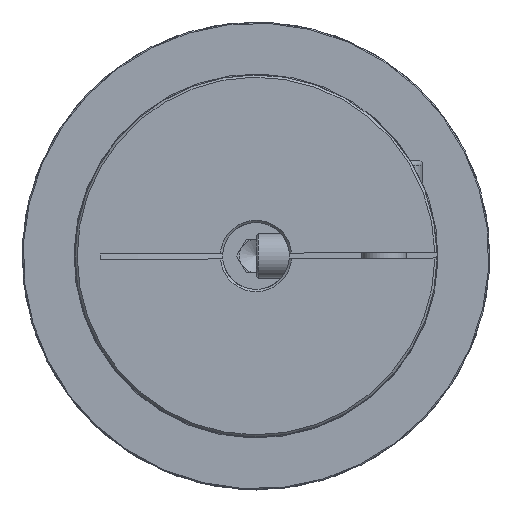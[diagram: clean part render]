
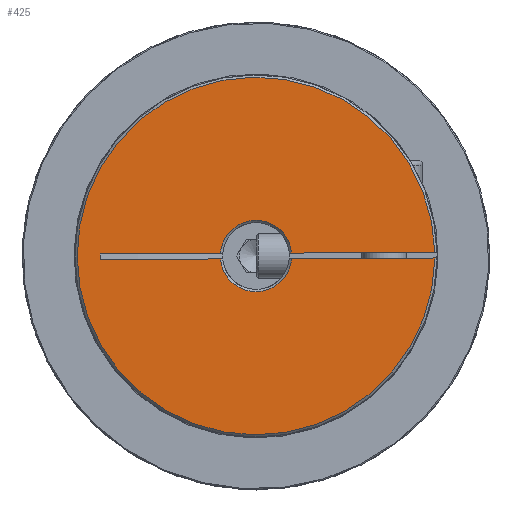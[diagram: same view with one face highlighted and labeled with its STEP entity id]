
A CAD part, left-side view. The second image highlights one B-rep face of the part: STEP entity #425.
In plain terms, the highlighted planar face has unit normal (-1, 0, 0).
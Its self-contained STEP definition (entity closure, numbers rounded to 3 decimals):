
#425 = ADVANCED_FACE( 'NONE', ( #809 ), #810, .F. );
#809 = FACE_OUTER_BOUND( '', #1334, .T. );
#810 = PLANE( '', #1335 );
#1334 = EDGE_LOOP( '', ( #2134, #2135, #2136, #2137, #2138, #2139, #2140, #2141 ) );
#1335 = AXIS2_PLACEMENT_3D( '', #2142, #2143, #2144 );
#2134 = ORIENTED_EDGE( '', *, *, #2863, .T. );
#2135 = ORIENTED_EDGE( '', *, *, #2864, .T. );
#2136 = ORIENTED_EDGE( '', *, *, #2865, .T. );
#2137 = ORIENTED_EDGE( '', *, *, #2866, .T. );
#2138 = ORIENTED_EDGE( '', *, *, #2867, .F. );
#2139 = ORIENTED_EDGE( '', *, *, #2868, .T. );
#2140 = ORIENTED_EDGE( '', *, *, #2859, .F. );
#2141 = ORIENTED_EDGE( '', *, *, #2869, .T. );
#2142 = CARTESIAN_POINT( '', ( 0., 16.25, 0. ) );
#2143 = DIRECTION( '', ( 1., 0., 0. ) );
#2144 = DIRECTION( '', ( 0., 1., 0. ) );
#2859 = EDGE_CURVE( 'NONE', #3255, #3256, #3257, .F. );
#2863 = EDGE_CURVE( 'NONE', #3263, #3264, #3265, .T. );
#2864 = EDGE_CURVE( 'NONE', #3264, #3266, #3267, .T. );
#2865 = EDGE_CURVE( 'NONE', #3266, #3268, #3269, .T. );
#2866 = EDGE_CURVE( 'NONE', #3268, #3270, #3271, .F. );
#2867 = EDGE_CURVE( 'NONE', #3272, #3270, #3273, .F. );
#2868 = EDGE_CURVE( 'NONE', #3272, #3256, #3274, .T. );
#2869 = EDGE_CURVE( 'NONE', #3255, #3263, #3275, .T. );
#3255 = VERTEX_POINT( 'NONE', #4181 );
#3256 = VERTEX_POINT( 'NONE', #4182 );
#3257 = LINE( '', #4183, #4184 );
#3263 = VERTEX_POINT( 'NONE', #4194 );
#3264 = VERTEX_POINT( 'NONE', #4195 );
#3265 = LINE( '', #4196, #4197 );
#3266 = VERTEX_POINT( 'NONE', #4198 );
#3267 = CIRCLE( '', #4199, 3.2 );
#3268 = VERTEX_POINT( 'NONE', #4200 );
#3269 = LINE( '', #4201, #4202 );
#3270 = VERTEX_POINT( 'NONE', #4203 );
#3271 = CIRCLE( '', #4204, 16.05 );
#3272 = VERTEX_POINT( 'NONE', #4205 );
#3273 = LINE( '', #4206, #4207 );
#3274 = CIRCLE( '', #4208, 3.2 );
#3275 = LINE( '', #4209, #4210 );
#4181 = CARTESIAN_POINT( '', ( 0., -0.25, -13.976 ) );
#4182 = CARTESIAN_POINT( '', ( 0., -0.25, -3.19 ) );
#4183 = CARTESIAN_POINT( '', ( 0., -0.25, 7. ) );
#4184 = VECTOR( '', #4876, 1000. );
#4194 = CARTESIAN_POINT( '', ( 0., 0.25, -13.976 ) );
#4195 = CARTESIAN_POINT( '', ( 0., 0.25, -3.19 ) );
#4196 = CARTESIAN_POINT( '', ( 0., 0.25, 0. ) );
#4197 = VECTOR( '', #4881, 1000. );
#4198 = CARTESIAN_POINT( '', ( 0., 0.25, 3.19 ) );
#4199 = AXIS2_PLACEMENT_3D( '', #4882, #4883, #4884 );
#4200 = CARTESIAN_POINT( '', ( 0., 0.25, 16.048 ) );
#4201 = CARTESIAN_POINT( '', ( 0., 0.25, 0. ) );
#4202 = VECTOR( '', #4885, 1000. );
#4203 = CARTESIAN_POINT( '', ( 0., -0.25, 16.048 ) );
#4204 = AXIS2_PLACEMENT_3D( '', #4886, #4887, #4888 );
#4205 = CARTESIAN_POINT( '', ( 0., -0.25, 3.19 ) );
#4206 = CARTESIAN_POINT( '', ( 0., -0.25, 7. ) );
#4207 = VECTOR( '', #4889, 1000. );
#4208 = AXIS2_PLACEMENT_3D( '', #4890, #4891, #4892 );
#4209 = CARTESIAN_POINT( '', ( 0., -0.25, -13.976 ) );
#4210 = VECTOR( '', #4893, 1000. );
#4876 = DIRECTION( '', ( 0., 0., -1. ) );
#4881 = DIRECTION( '', ( 0., 0., 1. ) );
#4882 = CARTESIAN_POINT( '', ( 0., 0., 0. ) );
#4883 = DIRECTION( '', ( 1., 0., 0. ) );
#4884 = DIRECTION( '', ( 0., 0., -1. ) );
#4885 = DIRECTION( '', ( 0., 0., 1. ) );
#4886 = CARTESIAN_POINT( '', ( 0., 0., 0. ) );
#4887 = DIRECTION( '', ( 1., 0., 0. ) );
#4888 = DIRECTION( '', ( 0., 0., -1. ) );
#4889 = DIRECTION( '', ( 0., 0., -1. ) );
#4890 = CARTESIAN_POINT( '', ( 0., 0., 0. ) );
#4891 = DIRECTION( '', ( 1., 0., 0. ) );
#4892 = DIRECTION( '', ( 0., 0., -1. ) );
#4893 = DIRECTION( '', ( 0., 1., 0. ) );
